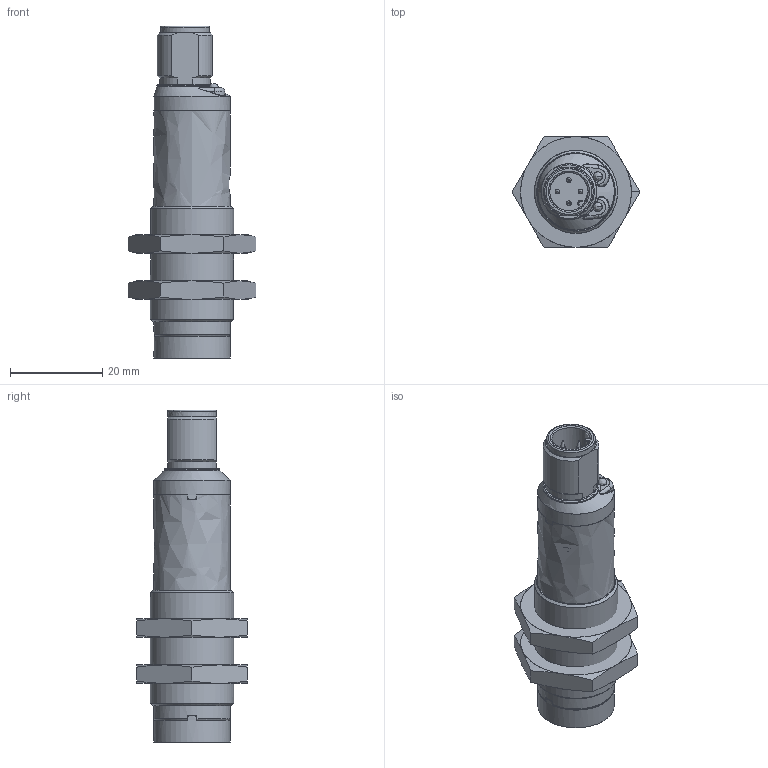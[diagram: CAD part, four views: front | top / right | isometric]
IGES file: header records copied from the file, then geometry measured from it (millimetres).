
Global section: file name: D:\CS\S15\DSD-0526.igs; native system: NX V7.5; preprocessor: SIEMENS PLM Software NX 7.5; date: 20130305.152032; units: millimetre
Bounding box: 27.71 x 24 x 71.9 mm (x, y, z)
Surface area: 28314 mm2 (no closed solid volume)
Topology: 0 solids, 0 shells, 1639 faces, 14536 edges, 14381 vertices
Faces by surface type: bspline 1639
